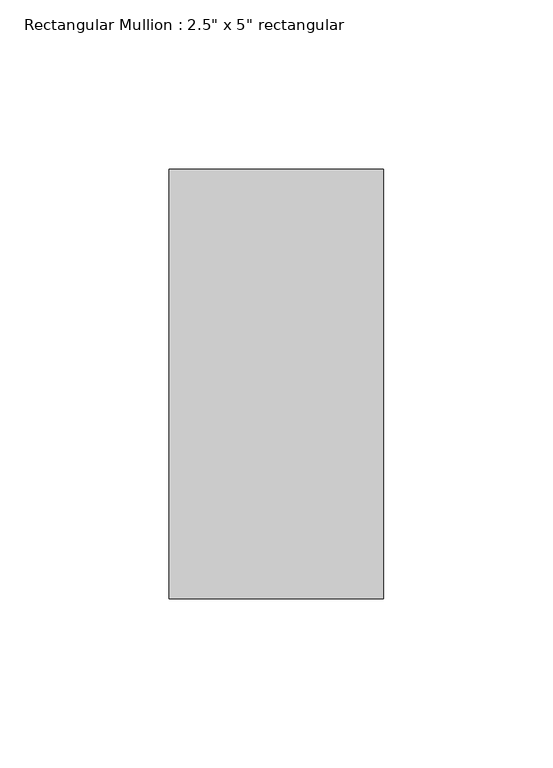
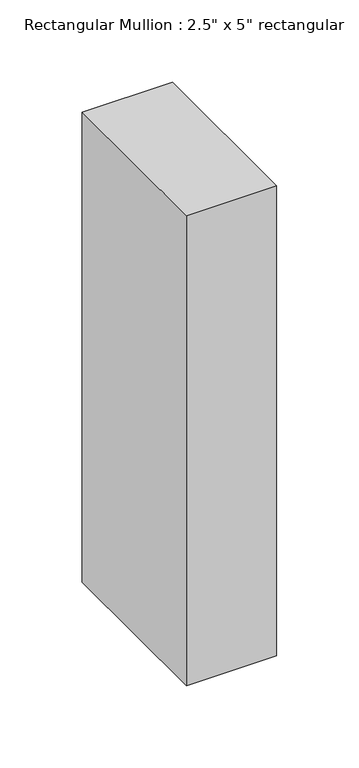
"""IFC4 building model written with IfcOpenShell, lengths in millimetres: member geometry."""

import ifcopenshell
import ifcopenshell.guid

model = None  # the IFC model being written
_history = None  # IfcOwnerHistory: only IFC2X3 demands one
_inside = {}  # id of a spatial element -> (the spatial element, [elements in it])
_under = {}  # id of a project, library or spatial element -> (it, [spatial elements below it])
_declared = {}  # id of a project -> (the project, [libraries it declares])
_typed = {}  # id of a type object -> (the type object, [elements of that type])
_made_of = {}  # id of a material, layer set ... -> (it, [elements and type objects made of it])


def new_model(schema):
    """Start an empty IFC model of exactly this schema.

    Asked for "IFC4X3", IfcOpenShell would pick the latest addendum, in which some entities
    have other attributes; the version numbers below select the first issue.
    IFC2X3 requires an IfcOwnerHistory on every rooted entity: one is made here for all.
    """
    global model, _history
    if schema == "IFC4X3":
        model = ifcopenshell.file(schema_version=(4, 3, 0, 0))
    else:
        model = ifcopenshell.file(schema=schema)
    _inside.clear()
    _under.clear()
    _declared.clear()
    _typed.clear()
    _made_of.clear()
    _history = None
    if model.schema == "IFC2X3":
        org = make("IfcOrganization", Name="unknown")
        user = make(
            "IfcPersonAndOrganization",
            ThePerson=make("IfcPerson", FamilyName="unknown"),
            TheOrganization=org,
        )
        app = make(
            "IfcApplication",
            ApplicationDeveloper=org,
            Version="unknown",
            ApplicationFullName="unknown",
            ApplicationIdentifier="unknown",
        )
        _history = make(
            "IfcOwnerHistory",
            OwningUser=user,
            OwningApplication=app,
            ChangeAction="ADDED",
            CreationDate=0,
        )
    return model


def make(cls, **values):
    """One entity of the class cls with the attributes given. An attribute that is None is left unset."""
    return model.create_entity(
        cls, **{name: value for name, value in values.items() if value is not None}
    )


def rooted(cls, **values):
    """An entity with a GlobalId (a new one), such as an element, a storey or a relation."""
    return make(cls, GlobalId=ifcopenshell.guid.new(), OwnerHistory=_history, **values)


def si_unit(unit_type, name, prefix=None):
    """IfcSIUnit, for example si_unit("LENGTHUNIT", "METRE", prefix="MILLI")."""
    return make("IfcSIUnit", UnitType=unit_type, Prefix=prefix, Name=name)


def assignment(units):
    """IfcUnitAssignment: the units of a project."""
    return None if units is None else make("IfcUnitAssignment", Units=units)


def point(xyz):
    """IfcCartesianPoint."""
    return None if xyz is None else make("IfcCartesianPoint", Coordinates=xyz)


def direction(xyz):
    """IfcDirection."""
    return None if xyz is None else make("IfcDirection", DirectionRatios=xyz)


def frame(location, z_axis=None, x_axis=None):
    """IfcAxis2Placement3D, a coordinate frame: its origin and axes. An axis left out is left unset."""
    return make(
        "IfcAxis2Placement3D",
        Location=point(location),
        Axis=direction(z_axis),
        RefDirection=direction(x_axis),
    )


def origin():
    """The frame at (0, 0, 0) with its axes left unset."""
    return frame((0.0, 0.0, 0.0))


def place(relative_to, where):
    """IfcLocalPlacement: puts the frame where relative to a parent placement (None: the world)."""
    return make(
        "IfcLocalPlacement", PlacementRelTo=relative_to, RelativePlacement=where
    )


def context(
    kind, dimensions, precision=None, world=None, true_north=None, identifier=None
):
    """IfcGeometricRepresentationContext, for example the 3D "Model" context."""
    return make(
        "IfcGeometricRepresentationContext",
        ContextIdentifier=identifier,
        ContextType=kind,
        CoordinateSpaceDimension=dimensions,
        Precision=precision,
        WorldCoordinateSystem=world,
        TrueNorth=true_north,
    )


def project(units=None, contexts=None):
    """IfcProject with its units and contexts."""
    return rooted(
        "IfcProject",
        Name="project",
        RepresentationContexts=contexts,
        UnitsInContext=assignment(units),
    )


def spatial(cls, under=None, at=None, **own):
    """A site, building, storey or space (cls), placed at a placement, below another one or the project."""
    s = rooted(cls, ObjectPlacement=at, **own)
    if under is not None:
        _under.setdefault(under.id(), (under, []))[1].append(s)
    return s


def polyline(points):
    """IfcPolyline through the points."""
    return make("IfcPolyline", Points=[point(p) for p in points])


def outline(outer, holes=None, kind="AREA"):
    """IfcArbitraryClosedProfileDef: a profile drawn as a closed curve; with holes, ...WithVoids."""
    if holes is None:
        return make("IfcArbitraryClosedProfileDef", ProfileType=kind, OuterCurve=outer)
    return make(
        "IfcArbitraryProfileDefWithVoids",
        ProfileType=kind,
        OuterCurve=outer,
        InnerCurves=holes,
    )


def extrude(swept, where, along, depth):
    """IfcExtrudedAreaSolid: the profile swept, set in the frame where, extruded along a direction by depth."""
    return make(
        "IfcExtrudedAreaSolid",
        SweptArea=swept,
        Position=where,
        ExtrudedDirection=direction(along),
        Depth=depth,
    )


def shape(context_of_items, identifier, shape_type, items):
    """IfcShapeRepresentation: the items that make up one representation, for example the "Body"."""
    return make(
        "IfcShapeRepresentation",
        ContextOfItems=context_of_items,
        RepresentationIdentifier=identifier,
        RepresentationType=shape_type,
        Items=items,
    )


def source(mapping_origin, context_of_items, identifier, shape_type, items):
    """IfcRepresentationMap: a shape defined once, which mapped items show again and again."""
    return make(
        "IfcRepresentationMap",
        MappingOrigin=mapping_origin,
        MappedRepresentation=shape(context_of_items, identifier, shape_type, items),
    )


def transform(
    local_origin,
    x_axis=None,
    y_axis=None,
    z_axis=None,
    scale=None,
    scale2=None,
    scale3=None,
    uniform=True,
):
    """IfcCartesianTransformationOperator3D, or its non-uniform kind. x_axis, y_axis, z_axis: its Axis1, 2, 3."""
    if uniform:
        return make(
            "IfcCartesianTransformationOperator3D",
            Axis1=direction(x_axis),
            Axis2=direction(y_axis),
            LocalOrigin=point(local_origin),
            Scale=scale,
            Axis3=direction(z_axis),
        )
    return make(
        "IfcCartesianTransformationOperator3DnonUniform",
        Axis1=direction(x_axis),
        Axis2=direction(y_axis),
        LocalOrigin=point(local_origin),
        Scale=scale,
        Axis3=direction(z_axis),
        Scale2=scale2,
        Scale3=scale3,
    )


def mapped(mapping_source, mapping_target):
    """IfcMappedItem: shows the shape of a source again, moved by a transform."""
    return make(
        "IfcMappedItem", MappingSource=mapping_source, MappingTarget=mapping_target
    )


def made_of(thing, what):
    """Note that an element or type object is made of a material, layer set ...; save() writes the relation."""
    if what is not None:
        _made_of.setdefault(what.id(), (what, []))[1].append(thing)
    return thing


def element(
    cls,
    number,
    at=None,
    inside=None,
    cuts=None,
    type_object=None,
    material=None,
    context=None,
    identifier="Body",
    shape_type=None,
    held_by="IfcProductDefinitionShape",
    body=None,
    shapes=None,
    **own,
):
    """One element of the class cls, such as IfcWall. Its Tag is "e" and its number.

    at: its placement. inside: the storey or other place that contains it. cuts: it is an
    opening in that element (IfcRelVoidsElement). A single representation is given by context,
    identifier, shape_type and body (its items); several are given by shapes. held_by: the class
    of the entity that holds the representations. save() writes the other relations.
    """
    e = rooted(cls, Tag="e%d" % number, ObjectPlacement=at, **own)
    if body is not None:
        shapes = [shape(context, identifier, shape_type, body)]
    if shapes is not None:
        e.Representation = make(held_by, Representations=shapes)
    if inside is not None:
        _inside.setdefault(inside.id(), (inside, []))[1].append(e)
    if cuts is not None:
        rooted(
            "IfcRelVoidsElement", RelatingBuildingElement=cuts, RelatedOpeningElement=e
        )
    if type_object is not None:
        _typed.setdefault(type_object.id(), (type_object, []))[1].append(e)
    return made_of(e, material)


def aggregate(whole, parts):
    """IfcRelAggregates: a whole, such as a stair, and the parts it consists of."""
    return rooted("IfcRelAggregates", RelatingObject=whole, RelatedObjects=parts)


def save(model, path):
    """Write the relations noted so far, then the file.

    IfcRelAggregates (storeys below a building ...), IfcRelContainedInSpatialStructure (elements
    in a storey), IfcRelDefinesByType, IfcRelAssociatesMaterial and IfcRelDeclares: one each for
    every whole, place, type object, material and project.
    """
    for whole, parts in _under.values():
        aggregate(whole, parts)
    for where, things in _inside.values():
        rooted(
            "IfcRelContainedInSpatialStructure",
            RelatedElements=things,
            RelatingStructure=where,
        )
    for kind, things in _typed.values():
        rooted("IfcRelDefinesByType", RelatedObjects=things, RelatingType=kind)
    for what, things in _made_of.values():
        rooted("IfcRelAssociatesMaterial", RelatedObjects=things, RelatingMaterial=what)
    for by, libraries in _declared.values():
        rooted("IfcRelDeclares", RelatingContext=by, RelatedDefinitions=libraries)
    model.write(path)


def member_585e2b51(model_context):
    return source(origin(), model_context, "Body", "SweptSolid", [
        extrude(outline(polyline([(31.75, 63.5), (31.75, -63.5), (-31.75, -63.5), (-31.75, 63.5), (31.75, 63.5)])), frame((0.0, 0.0, -349.25), z_axis=(0.0, 0.0, 1.0), x_axis=(1.0, 0.0, 0.0)), (0.0, 0.0, 1.0), 349.25),
    ])


if __name__ == "__main__":
    model = new_model("IFC4")
    model_context = context("Model", 3, world=origin())
    ifc_project = project(units=[si_unit("LENGTHUNIT", "METRE", prefix="MILLI")], contexts=[model_context])
    site = spatial("IfcSite", under=ifc_project)
    building = spatial("IfcBuilding", under=site)
    placement = place(None, origin())
    member_shape = member_585e2b51(model_context)
    element("IfcMember", 1, ObjectType="Rectangular Mullion : 2.5\" x 5\" rectangular", at=placement, inside=building, context=model_context, shape_type="MappedRepresentation", body=[
        mapped(member_shape, transform((0.0, 0.0, 0.0), x_axis=(1.0, 0.0, 0.0), y_axis=(0.0, 1.0, 0.0), z_axis=(0.0, 0.0, 1.0))),
    ])
    save(model, "model.ifc")
